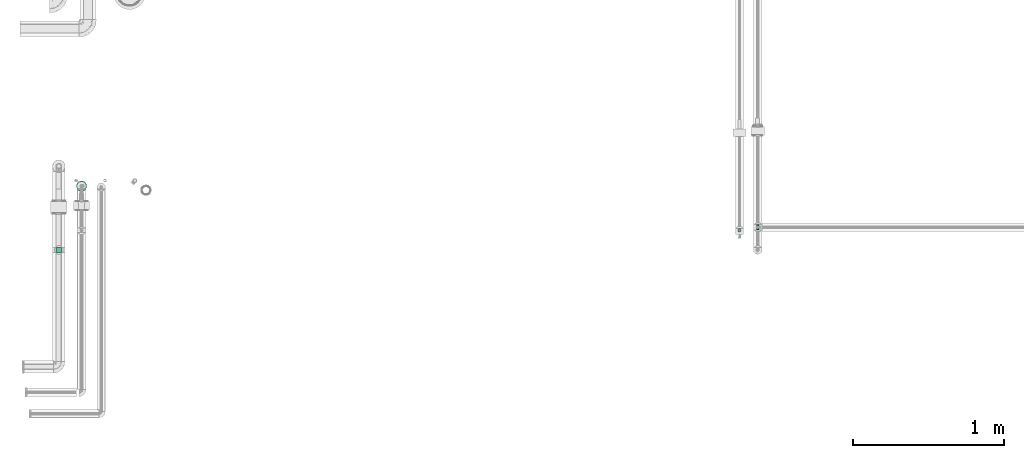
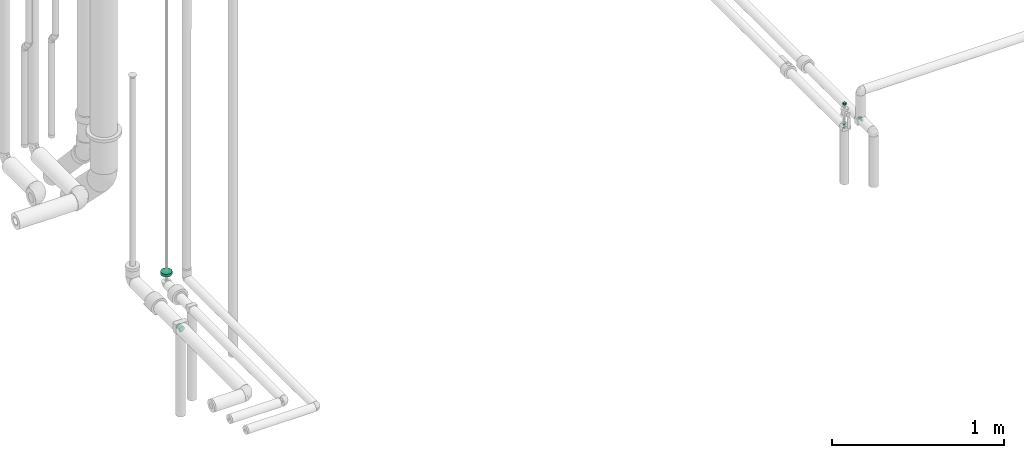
# One storey, part 76 of 78: 5 flow fittings.
"""IFC2X3 building model written with IfcOpenShell, lengths in millimetres."""

from ifc_helpers import new_model, entity, si_unit, converted_unit, derived_unit, direction, frame, origin_with_axes, place, context, subcontext, project, spatial, open_shell, surface_model, source, transform, mapped, type_object, element, save


model = new_model("IFC2X3")

# Units and contexts
model_context = context("Model", 3, precision=0.01, world=frame((0.0, 4.29681676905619e-09, 0.0)), true_north=direction((4.01073788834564e-13, 1.0)))
plan_context = context("Plan", 3, precision=0.01, world=frame((0.0, 4.29681676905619e-09, 0.0)), true_north=direction((4.01073788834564e-13, 1.0)))
body_context = subcontext(model_context, "Body", "Model", "MODEL_VIEW")
ifc_project = project(units=[converted_unit("PLANEANGLEUNIT", "DEGREE", entity("IfcPositiveLengthMeasure", 0.0174532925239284), si_unit("PLANEANGLEUNIT", "RADIAN"), dimensions=[0, 0, 0, 0, 0, 0, 0]), si_unit("AREAUNIT", "SQUARE_METRE"), si_unit("LENGTHUNIT", "METRE", prefix="MILLI"), si_unit("MASSUNIT", "GRAM", prefix="KILO"), si_unit("POWERUNIT", "WATT"), si_unit("PRESSUREUNIT", "PASCAL"), si_unit("FORCEUNIT", "NEWTON", prefix="KILO"), si_unit("ELECTRICVOLTAGEUNIT", "VOLT"), si_unit("ELECTRICCURRENTUNIT", "AMPERE"), si_unit("THERMODYNAMICTEMPERATUREUNIT", "DEGREE_CELSIUS"), si_unit("TIMEUNIT", "SECOND"), si_unit("VOLUMEUNIT", "CUBIC_METRE"), derived_unit("LINEARVELOCITYUNIT", [(si_unit("LENGTHUNIT", "METRE"), 1), (si_unit("TIMEUNIT", "SECOND"), -1)]), derived_unit("VOLUMETRICFLOWRATEUNIT", [(si_unit("VOLUMEUNIT", "CUBIC_METRE"), 1), (si_unit("TIMEUNIT", "SECOND"), -1)]), derived_unit("THERMALTRANSMITTANCEUNIT", [(si_unit("POWERUNIT", "WATT"), 1), (si_unit("THERMODYNAMICTEMPERATUREUNIT", "KELVIN"), -1), (si_unit("AREAUNIT", "SQUARE_METRE"), -1)]), derived_unit("SOUNDPRESSUREUNIT", [(si_unit("PRESSUREUNIT", "PASCAL"), 1)])], contexts=[model_context, plan_context])

# Site, building, storey
site_placement = place(None, frame((0.0, -4.29681676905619e-09, 0.0), z_axis=(0.0, 0.0, 1.0), x_axis=(1.0, 0.0, 0.0)))
site = spatial("IfcSite", under=ifc_project, at=site_placement, Name="ENGM", CompositionType="ELEMENT")
building_placement = place(site_placement, frame((0.0, 4.29681676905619e-09, 0.0), z_axis=(0.0, 0.0, 1.0), x_axis=(1.0, 0.0, 0.0)))
building = spatial("IfcBuilding", under=site, at=building_placement, Name="TH", CompositionType="ELEMENT")
storey_placement = place(building_placement, frame((0.0, 0.0, 205200.0), z_axis=(0.0, 0.0, 1.0), x_axis=(1.0, 0.0, 0.0)))
storey = spatial("IfcBuildingStorey", under=building, at=storey_placement, Name="Nivå D + 1,2 m", CompositionType="ELEMENT", Elevation=205200.0)

# Flow fittings
pipe_fitting_type_1 = type_object("IfcPipeFittingType", Name="magi_pipe_cu_joint_001", PredefinedType="CONNECTOR")
shared_shape_1 = source(origin_with_axes(), body_context, "Body", "SurfaceModel", [
    surface_model("IfcShellBasedSurfaceModel", [(0.0, 4.5, -7.79423), (0.0, 2.32937, -8.69333), (0.0, 0.0, -9.0), (0.0, -9.0, 0.0), (0.0, -4.5, 7.79423), (0.0, 6.36396, -6.36396), (0.0, 7.79423, -4.5), (0.0, 9.0, 0.0), (0.0, -4.5, -7.79423), (0.0, -6.36396, -6.36396), (0.0, -2.32937, -8.69333), (0.0, -7.79423, -4.5), (0.0, -8.69333, -2.32937), (0.0, 8.69333, -2.32937), (0.0, 8.69333, 2.32937), (0.0, 2.32937, 8.69333), (0.0, 7.79423, 4.5), (0.0, 4.5, 7.79423), (0.0, 6.36396, 6.36396), (0.0, 0.0, 9.0), (0.0, -6.36396, 6.36396), (0.0, -7.79423, 4.5), (0.0, -8.69333, 2.32937), (0.0, -2.32937, 8.69333), (0.0, 17.0, -29.44486), (0.0, 32.84148, -8.79985), (0.0, 24.04163, -24.04163), (0.0, 0.0, -34.0), (0.0, -8.79985, -32.84148), (0.0, 8.79985, -32.84148), (0.0, 29.44486, -17.0), (0.0, -32.84148, -8.79985), (0.0, 8.79985, 32.84148), (0.0, -24.04163, -24.04163), (0.0, -29.44486, -17.0), (0.0, -17.0, -29.44486), (0.0, -34.0, 0.0), (0.0, -8.79985, 32.84148), (0.0, 32.84148, 8.79985), (0.0, 29.44486, 17.0), (0.0, 17.0, 29.44486), (0.0, 24.04163, 24.04163), (0.0, -24.04163, 24.04163), (0.0, -17.0, 29.44486), (0.0, -29.44486, 17.0), (0.0, -32.84148, 8.79985), (0.0, 0.0, 34.0), (0.0, 34.0, 0.0), (20.0, 8.79985, -32.84148), (20.0, -8.79985, -32.84148), (20.0, 0.0, -34.0), (20.0, 32.84148, -8.79985), (20.0, 17.0, -29.44486), (20.0, 24.04163, -24.04163), (20.0, 29.44486, -17.0), (20.0, 32.84148, 8.79985), (20.0, -32.84148, -8.79985), (20.0, -17.0, -29.44486), (20.0, -29.44486, -17.0), (20.0, -24.04163, -24.04163), (20.0, -34.0, 0.0), (20.0, 34.0, 0.0), (20.0, 8.79985, 32.84148), (20.0, 29.44486, 17.0), (20.0, 17.0, 29.44486), (20.0, 24.04163, 24.04163), (20.0, -8.79985, 32.84148), (20.0, -29.44486, 17.0), (20.0, -17.0, 29.44486), (20.0, -24.04163, 24.04163), (20.0, -32.84148, 8.79985), (20.0, 0.0, 34.0), (20.0, 0.0, -9.0), (20.0, 2.32937, -8.69333), (20.0, 4.5, -7.79423), (20.0, 7.79423, -4.5), (20.0, -2.32937, -8.69333), (20.0, 6.36396, -6.36396), (20.0, -8.69333, 2.32937), (20.0, -4.5, -7.79423), (20.0, -8.69333, -2.32937), (20.0, -6.36396, -6.36396), (20.0, -9.0, 0.0), (20.0, -7.79423, -4.5), (20.0, 8.69333, -2.32937), (20.0, 9.0, 0.0), (20.0, 8.69333, 2.32937), (20.0, 7.79423, 4.5), (20.0, 6.36396, 6.36396), (20.0, 4.5, 7.79423), (20.0, 2.32937, 8.69333), (20.0, 0.0, 9.0), (20.0, -7.79423, 4.5), (20.0, -4.5, 7.79423), (20.0, -6.36396, 6.36396), (20.0, -2.32937, 8.69333)], [open_shell([[[0, 1, 2]], [[2, 3, 4]], [[0, 2, 4]], [[5, 0, 6]], [[7, 6, 0]], [[8, 9, 10]], [[9, 2, 10]], [[11, 12, 9]], [[3, 9, 12]], [[9, 3, 2]], [[7, 13, 6]], [[14, 7, 15]], [[16, 14, 15]], [[16, 15, 17]], [[18, 16, 17]], [[19, 15, 7]], [[20, 4, 21]], [[3, 22, 21]], [[23, 19, 4]], [[21, 4, 3]], [[0, 4, 19]], [[19, 7, 0]], [[24, 25, 26]], [[27, 28, 29]], [[24, 29, 25]], [[25, 30, 26]], [[31, 32, 29]], [[33, 34, 35]], [[28, 35, 34]], [[34, 31, 28]], [[31, 29, 28]], [[36, 37, 31]], [[38, 25, 29]], [[32, 38, 29]], [[39, 38, 32]], [[39, 32, 40]], [[41, 39, 40]], [[31, 37, 32]], [[42, 43, 44]], [[44, 36, 45]], [[44, 43, 36]], [[37, 36, 43]], [[37, 46, 32]], [[47, 25, 38]], [[48, 49, 50]], [[51, 48, 52]], [[53, 54, 51]], [[53, 51, 52]], [[48, 55, 56]], [[57, 58, 59]], [[58, 57, 49]], [[49, 56, 58]], [[49, 48, 56]], [[56, 55, 60]], [[48, 51, 61]], [[55, 62, 60]], [[62, 55, 63]], [[64, 62, 63]], [[64, 63, 65]], [[60, 62, 66]], [[67, 68, 69]], [[70, 60, 67]], [[60, 68, 67]], [[68, 60, 66]], [[62, 71, 66]], [[48, 61, 55]], [[70, 36, 60]], [[67, 45, 70]], [[42, 69, 68]], [[67, 69, 44]], [[43, 68, 66]], [[67, 44, 45]], [[45, 36, 70]], [[37, 71, 46]], [[37, 43, 66]], [[42, 68, 43]], [[42, 44, 69]], [[71, 37, 66]], [[64, 32, 62]], [[65, 40, 64]], [[39, 63, 55]], [[65, 63, 41]], [[38, 55, 61]], [[64, 40, 32]], [[32, 46, 62]], [[38, 39, 55]], [[41, 63, 39]], [[41, 40, 65]], [[47, 38, 61]], [[62, 46, 71]], [[51, 47, 61]], [[54, 25, 51]], [[26, 53, 52]], [[54, 53, 30]], [[24, 52, 48]], [[54, 30, 25]], [[25, 47, 51]], [[29, 50, 27]], [[29, 24, 48]], [[26, 52, 24]], [[26, 30, 53]], [[50, 29, 48]], [[57, 28, 49]], [[59, 35, 57]], [[34, 58, 56]], [[59, 58, 33]], [[31, 56, 60]], [[57, 35, 28]], [[28, 27, 49]], [[31, 34, 56]], [[33, 58, 34]], [[33, 35, 59]], [[36, 31, 60]], [[49, 27, 50]], [[72, 73, 74]], [[72, 74, 75]], [[72, 75, 76]], [[75, 74, 77]], [[78, 76, 75]], [[79, 80, 81]], [[82, 79, 76]], [[81, 80, 83]], [[80, 79, 82]], [[82, 76, 78]], [[78, 75, 84]], [[85, 86, 87]], [[85, 87, 88]], [[88, 89, 90]], [[88, 90, 85]], [[85, 90, 91]], [[92, 93, 94]], [[93, 92, 78]], [[93, 91, 95]], [[78, 84, 93]], [[85, 91, 93]], [[93, 84, 85]], [[78, 3, 82]], [[92, 22, 78]], [[20, 94, 93]], [[92, 94, 21]], [[4, 93, 95]], [[92, 21, 22]], [[22, 3, 78]], [[23, 91, 19]], [[23, 4, 95]], [[20, 93, 4]], [[20, 21, 94]], [[91, 23, 95]], [[89, 15, 90]], [[88, 17, 89]], [[16, 87, 86]], [[88, 87, 18]], [[14, 86, 85]], [[89, 17, 15]], [[15, 19, 90]], [[14, 16, 86]], [[18, 87, 16]], [[18, 17, 88]], [[7, 14, 85]], [[90, 19, 91]], [[84, 7, 85]], [[75, 13, 84]], [[5, 77, 74]], [[75, 77, 6]], [[0, 74, 73]], [[75, 6, 13]], [[13, 7, 84]], [[1, 72, 2]], [[1, 0, 73]], [[5, 74, 0]], [[5, 6, 77]], [[72, 1, 73]], [[79, 10, 76]], [[81, 8, 79]], [[11, 83, 80]], [[81, 83, 9]], [[12, 80, 82]], [[79, 8, 10]], [[10, 2, 76]], [[12, 11, 80]], [[9, 83, 11]], [[9, 8, 81]], [[3, 12, 82]], [[76, 2, 72]]])]),
])
flow_fitting_1_placement = place(storey_placement, frame((895520.48466, 478549.2375, 4518.0), z_axis=(1.0, 0.0, 0.0), x_axis=(0.0, 0.0, 1.0)))
element("IfcFlowFitting", 1, at=flow_fitting_1_placement, inside=storey, type_object=pipe_fitting_type_1, Name="magi_pipe_cu_joint_001", context=body_context, shape_type="MappedRepresentation", body=[
    mapped(shared_shape_1, transform((0.0, 0.0, 0.0), scale=1.0)),
])
pipe_fitting_type_2 = type_object("IfcPipeFittingType", Name="magi_pipe_cu_tee_centric_90_001", PredefinedType="JUNCTION")
shared_shape_2 = source(origin_with_axes(), body_context, "Body", "SurfaceModel", [
    surface_model("IfcShellBasedSurfaceModel", [(-18.0, 4.5, -7.79423), (-18.0, 2.32937, -8.69333), (-18.0, 0.0, -9.0), (-18.0, 6.36396, -6.36396), (-18.0, 7.79423, -4.5), (-18.0, -4.5, -7.79423), (-18.0, -6.36396, -6.36396), (-18.0, -2.32937, -8.69333), (-18.0, -7.79423, -4.5), (-18.0, -8.69333, -2.32937), (-18.0, -9.0, 0.0), (-18.0, 8.69333, -2.32937), (-18.0, -4.5, 7.79423), (-18.0, 8.69333, 2.32937), (-18.0, 9.0, 0.0), (-18.0, 2.32937, 8.69333), (-18.0, 7.79423, 4.5), (-18.0, 4.5, 7.79423), (-18.0, 6.36396, 6.36396), (-18.0, 0.0, 9.0), (-18.0, -6.36396, 6.36396), (-18.0, -7.79423, 4.5), (-18.0, -8.69333, 2.32937), (-18.0, -2.32937, 8.69333), (18.0, 0.0, -9.0), (18.0, 2.32937, -8.69333), (18.0, 4.5, -7.79423), (18.0, -9.0, 0.0), (18.0, -4.5, 7.79423), (18.0, 7.79423, -4.5), (18.0, 6.36396, -6.36396), (18.0, 8.69333, 2.32937), (18.0, -4.5, -7.79423), (18.0, -2.32937, -8.69333), (18.0, -6.36396, -6.36396), (18.0, -8.69333, -2.32937), (18.0, -7.79423, -4.5), (18.0, 8.69333, -2.32937), (18.0, 9.0, 0.0), (18.0, 2.32937, 8.69333), (18.0, 7.79423, 4.5), (18.0, 4.5, 7.79423), (18.0, 6.36396, 6.36396), (18.0, -7.79423, 4.5), (18.0, -6.36396, 6.36396), (18.0, -8.69333, 2.32937), (18.0, 0.0, 9.0), (18.0, -2.32937, 8.69333), (9.0, -9.0, 0.0), (8.67354, -8.67354, 2.40202), (7.78955, -7.78955, 4.50809), (6.53082, -6.53082, 6.19261), (5.04433, -5.04433, 7.4535), (-9.0, -9.0, 0.0), (-8.67354, -8.67354, 2.40202), (-7.78955, -7.78955, 4.50809), (-6.53082, -6.53082, 6.19261), (-5.04433, -5.04433, 7.4535), (3.4237, -3.4237, 8.32336), (1.72822, -1.72822, 8.83251), (0.0, 0.0, 9.0), (-3.4237, -3.4237, 8.32336), (-1.72822, -1.72822, 8.83251), (0.0, 0.0, -9.0), (3.4237, -3.4237, -8.32336), (1.72822, -1.72822, -8.83251), (5.04433, -5.04433, -7.4535), (-1.72822, -1.72822, -8.83251), (-3.4237, -3.4237, -8.32336), (-5.04433, -5.04433, -7.4535), (6.53082, -6.53082, -6.19261), (7.78955, -7.78955, -4.50809), (8.67354, -8.67354, -2.40202), (-6.53082, -6.53082, -6.19261), (-7.78955, -7.78955, -4.50809), (-8.67354, -8.67354, -2.40202), (0.0, -13.5, -9.0), (2.32937, -13.5, -8.69333), (4.5, -13.5, -7.79423), (-8.69333, -13.5, 2.32937), (-4.5, -13.5, 7.79423), (6.36396, -13.5, -6.36396), (7.79423, -13.5, -4.5), (-9.0, -13.5, 0.0), (-2.32937, -13.5, -8.69333), (-6.36396, -13.5, -6.36396), (-4.5, -13.5, -7.79423), (-7.79423, -13.5, -4.5), (-8.69333, -13.5, -2.32937), (8.69333, -13.5, -2.32937), (8.69333, -13.5, 2.32937), (9.0, -13.5, 0.0), (2.32937, -13.5, 8.69333), (7.79423, -13.5, 4.5), (4.5, -13.5, 7.79423), (6.36396, -13.5, 6.36396), (-6.36396, -13.5, 6.36396), (-7.79423, -13.5, 4.5), (0.0, -13.5, 9.0), (-2.32937, -13.5, 8.69333)], [open_shell([[[0, 1, 2]], [[3, 0, 4]], [[5, 6, 7]], [[8, 9, 6]], [[10, 6, 9]], [[6, 10, 11]], [[0, 2, 7]], [[7, 4, 0]], [[4, 7, 11]], [[6, 11, 7]], [[10, 12, 11]], [[13, 14, 15]], [[16, 13, 15]], [[16, 15, 17]], [[18, 16, 17]], [[19, 15, 14]], [[20, 12, 21]], [[10, 22, 21]], [[23, 19, 12]], [[21, 12, 10]], [[12, 19, 14]], [[14, 11, 12]], [[24, 25, 26]], [[27, 24, 26]], [[27, 26, 28]], [[29, 26, 30]], [[26, 29, 31]], [[24, 32, 33]], [[24, 34, 32]], [[34, 35, 36]], [[35, 34, 27]], [[24, 27, 34]], [[29, 37, 38]], [[28, 26, 31]], [[39, 31, 40]], [[41, 39, 40]], [[41, 40, 42]], [[28, 31, 39]], [[43, 28, 44]], [[43, 45, 27]], [[28, 46, 47]], [[27, 28, 43]], [[39, 46, 28]], [[29, 38, 31]], [[27, 45, 48]], [[45, 49, 48]], [[49, 45, 43]], [[49, 43, 50]], [[44, 28, 51]], [[51, 50, 44]], [[52, 51, 28]], [[44, 50, 43]], [[53, 54, 22]], [[53, 22, 10]], [[22, 54, 21]], [[54, 55, 21]], [[56, 57, 12]], [[56, 20, 55]], [[20, 56, 12]], [[55, 20, 21]], [[12, 57, 23]], [[52, 28, 47]], [[46, 58, 52]], [[58, 39, 59]], [[39, 58, 46]], [[59, 39, 41]], [[46, 52, 47]], [[41, 42, 60]], [[60, 40, 31]], [[40, 60, 42]], [[41, 60, 59]], [[60, 31, 38]], [[15, 61, 62]], [[19, 23, 57]], [[15, 19, 61]], [[19, 57, 61]], [[62, 60, 17]], [[60, 13, 16]], [[16, 18, 60]], [[17, 15, 62]], [[60, 18, 17]], [[13, 60, 14]], [[60, 38, 14]], [[37, 63, 38]], [[30, 63, 29]], [[63, 37, 29]], [[63, 30, 26]], [[25, 24, 64]], [[25, 64, 65]], [[66, 64, 24]], [[66, 24, 33]], [[25, 65, 26]], [[63, 26, 65]], [[63, 0, 3]], [[11, 63, 4]], [[3, 4, 63]], [[63, 11, 14]], [[67, 1, 0]], [[1, 68, 2]], [[7, 2, 69]], [[67, 68, 1]], [[67, 0, 63]], [[14, 38, 63]], [[32, 34, 70]], [[70, 66, 32]], [[71, 70, 34]], [[34, 36, 71]], [[36, 35, 72]], [[35, 48, 72]], [[48, 35, 27]], [[36, 72, 71]], [[69, 5, 7]], [[5, 73, 6]], [[73, 5, 69]], [[6, 73, 74]], [[69, 2, 68]], [[75, 53, 9]], [[74, 75, 8]], [[75, 9, 8]], [[9, 53, 10]], [[74, 8, 6]], [[66, 33, 32]], [[76, 77, 78]], [[79, 76, 78]], [[80, 81, 82]], [[78, 81, 80]], [[83, 76, 79]], [[84, 85, 86]], [[84, 76, 85]], [[87, 83, 88]], [[83, 87, 85]], [[76, 83, 85]], [[82, 89, 80]], [[90, 80, 91]], [[92, 90, 93]], [[94, 92, 93]], [[94, 93, 95]], [[80, 90, 92]], [[79, 96, 97]], [[96, 79, 80]], [[80, 98, 99]], [[79, 78, 80]], [[92, 98, 80]], [[80, 89, 91]], [[79, 53, 83]], [[97, 54, 79]], [[55, 96, 80]], [[80, 99, 55]], [[97, 96, 54]], [[98, 56, 99]], [[54, 53, 79]], [[55, 54, 96]], [[51, 57, 56]], [[58, 62, 61]], [[61, 57, 52]], [[55, 99, 56]], [[98, 51, 56]], [[94, 50, 92]], [[95, 50, 94]], [[49, 93, 90]], [[91, 48, 90]], [[95, 93, 49]], [[49, 90, 48]], [[60, 62, 59]], [[59, 62, 58]], [[49, 50, 95]], [[52, 57, 51]], [[50, 51, 92]], [[61, 52, 58]], [[51, 98, 92]], [[89, 48, 91]], [[82, 72, 89]], [[71, 81, 78]], [[78, 77, 71]], [[82, 81, 72]], [[76, 70, 77]], [[72, 48, 89]], [[71, 72, 81]], [[73, 66, 70]], [[68, 65, 64]], [[64, 66, 69]], [[71, 77, 70]], [[76, 73, 70]], [[86, 74, 84]], [[85, 74, 86]], [[75, 87, 88]], [[83, 53, 88]], [[85, 87, 75]], [[75, 88, 53]], [[63, 65, 67]], [[67, 65, 68]], [[75, 74, 85]], [[69, 66, 73]], [[74, 73, 84]], [[64, 69, 68]], [[73, 76, 84]]])]),
])
flow_fitting_2_placement = place(storey_placement, frame((900010.50163, 478275.49112, 4210.0), z_axis=(-1.0, 0.0, 0.0), x_axis=(0.0, 1.0, 0.0)))
element("IfcFlowFitting", 2, at=flow_fitting_2_placement, inside=storey, type_object=pipe_fitting_type_2, Name="magi_pipe_cu_tee_centric_90_001", context=body_context, shape_type="MappedRepresentation", body=[
    mapped(shared_shape_2, transform((0.0, 0.0, 0.0), scale=1.0)),
])
shared_shape_3 = source(origin_with_axes(), body_context, "Body", "SurfaceModel", [
    surface_model("IfcShellBasedSurfaceModel", [(-18.0, 0.0, -17.5), (-18.0, -12.37437, -12.37437), (-18.0, 4.52933, -16.9037), (-18.0, 8.75, -15.15544), (-18.0, 12.37437, -12.37437), (-18.0, 16.9037, -4.52933), (-18.0, 15.15544, -8.75), (-18.0, -16.9037, -4.52933), (-18.0, 8.75, 15.15544), (-18.0, -4.52933, -16.9037), (-18.0, -8.75, -15.15544), (-18.0, -15.15544, -8.75), (-18.0, -17.5, 0.0), (-18.0, 4.52933, 16.9037), (-18.0, 15.15544, 8.75), (-18.0, 16.9037, 4.52933), (-18.0, 12.37437, 12.37437), (-18.0, 0.0, 17.5), (-18.0, -16.9037, 4.52933), (-18.0, -15.15544, 8.75), (-18.0, -12.37437, 12.37437), (-18.0, -8.75, 15.15544), (-18.0, -4.52933, 16.9037), (-18.0, 17.5, 0.0), (18.0, 4.52933, -16.9037), (18.0, -12.37437, -12.37437), (18.0, 0.0, -17.5), (18.0, 12.37437, -12.37437), (18.0, 8.75, -15.15544), (18.0, 15.15544, -8.75), (18.0, 16.9037, -4.52933), (18.0, 8.75, 15.15544), (18.0, -16.9037, -4.52933), (18.0, -8.75, -15.15544), (18.0, -4.52933, -16.9037), (18.0, -15.15544, -8.75), (18.0, -17.5, 0.0), (18.0, 16.9037, 4.52933), (18.0, 15.15544, 8.75), (18.0, 4.52933, 16.9037), (18.0, 12.37437, 12.37437), (18.0, 0.0, 17.5), (18.0, -15.15544, 8.75), (18.0, -16.9037, 4.52933), (18.0, -12.37437, 12.37437), (18.0, -4.52933, 16.9037), (18.0, -8.75, 15.15544), (18.0, 17.5, 0.0), (18.0, -17.20185, 2.26467), (8.44213, -17.21975, 3.11935), (9.0, -17.5, 0.0), (6.87951, -16.50993, 5.80279), (1.58778, -15.09209, 8.85884), (18.0, -16.02957, 6.63967), (4.52704, -15.67623, 7.77856), (-4.52783, -15.67646, 7.77809), (-18.0, -16.02957, 6.63967), (-6.88178, -16.51087, 5.8001), (-8.44241, -17.21988, 3.1186), (-18.0, -17.20185, 2.26467), (-9.0, -17.5, 0.0), (-1.59035, -15.09236, 8.85837), (-6.88178, -16.51087, -5.8001), (-18.0, -16.02957, -6.63967), (-18.0, -17.20185, -2.26467), (-8.44241, -17.21988, -3.1186), (4.52704, -15.67623, -7.77856), (18.0, -16.02957, -6.63967), (6.87951, -16.50993, -5.80279), (1.58778, -15.09209, -8.85884), (8.44213, -17.21975, -3.11935), (18.0, -17.20185, -2.26467), (-1.59035, -15.09236, -8.85837), (-4.52783, -15.67646, -7.77809), (0.0, -26.25, -9.0), (2.32937, -26.25, -8.69333), (4.5, -26.25, -7.79423), (-8.69333, -26.25, 2.32937), (-4.5, -26.25, 7.79423), (6.36396, -26.25, -6.36396), (7.79423, -26.25, -4.5), (-9.0, -26.25, 0.0), (-2.32937, -26.25, -8.69333), (-6.36396, -26.25, -6.36396), (-4.5, -26.25, -7.79423), (-7.79423, -26.25, -4.5), (-8.69333, -26.25, -2.32937), (8.69333, -26.25, -2.32937), (8.69333, -26.25, 2.32937), (9.0, -26.25, 0.0), (2.32937, -26.25, 8.69333), (7.79423, -26.25, 4.5), (4.5, -26.25, 7.79423), (6.36396, -26.25, 6.36396), (-6.36396, -26.25, 6.36396), (-7.79423, -26.25, 4.5), (0.0, -26.25, 9.0), (-2.32937, -26.25, 8.69333)], [open_shell([[[0, 1, 2]], [[3, 2, 4]], [[5, 6, 4]], [[1, 4, 2]], [[7, 8, 4]], [[9, 10, 0]], [[10, 1, 0]], [[11, 7, 1]], [[1, 7, 4]], [[12, 13, 7]], [[5, 4, 8]], [[14, 15, 5]], [[8, 14, 5]], [[8, 7, 13]], [[16, 14, 8]], [[13, 12, 17]], [[18, 19, 12]], [[19, 20, 12]], [[21, 22, 20]], [[17, 20, 22]], [[12, 20, 17]], [[23, 5, 15]], [[24, 25, 26]], [[27, 24, 28]], [[27, 29, 30]], [[24, 27, 25]], [[27, 31, 32]], [[26, 33, 34]], [[26, 25, 33]], [[25, 32, 35]], [[27, 32, 25]], [[32, 31, 36]], [[31, 27, 30]], [[30, 37, 38]], [[30, 38, 31]], [[39, 36, 31]], [[31, 38, 40]], [[41, 36, 39]], [[36, 42, 43]], [[36, 44, 42]], [[44, 45, 46]], [[44, 36, 45]], [[45, 36, 41]], [[37, 30, 47]], [[48, 43, 49]], [[50, 36, 48]], [[43, 51, 49]], [[42, 44, 52]], [[50, 48, 49]], [[51, 53, 54]], [[52, 54, 42]], [[44, 20, 52]], [[54, 53, 42]], [[55, 56, 57]], [[58, 59, 60]], [[12, 60, 59]], [[58, 57, 18]], [[55, 61, 19]], [[51, 43, 53]], [[19, 56, 55]], [[19, 61, 20]], [[57, 56, 18]], [[61, 52, 20]], [[58, 18, 59]], [[44, 21, 20]], [[17, 45, 41]], [[22, 46, 45]], [[13, 41, 39]], [[38, 37, 15]], [[16, 31, 40]], [[14, 40, 38]], [[39, 31, 8]], [[23, 37, 47]], [[21, 46, 22]], [[22, 45, 17]], [[13, 17, 41]], [[39, 8, 13]], [[8, 31, 16]], [[14, 16, 40]], [[15, 14, 38]], [[37, 23, 15]], [[46, 21, 44]], [[30, 23, 47]], [[30, 29, 5]], [[29, 27, 6]], [[9, 26, 34]], [[62, 7, 63]], [[0, 24, 26]], [[28, 24, 3]], [[34, 33, 10]], [[28, 4, 27]], [[4, 6, 27]], [[6, 5, 29]], [[5, 23, 30]], [[60, 64, 65]], [[3, 24, 2]], [[0, 2, 24]], [[26, 9, 0]], [[34, 10, 9]], [[66, 67, 68]], [[4, 28, 3]], [[33, 1, 10]], [[25, 35, 69]], [[70, 32, 71]], [[66, 69, 35]], [[67, 66, 35]], [[25, 69, 1]], [[36, 50, 71]], [[70, 68, 32]], [[70, 71, 50]], [[32, 68, 67]], [[72, 73, 11]], [[11, 1, 72]], [[62, 63, 73]], [[72, 1, 69]], [[62, 65, 7]], [[65, 64, 7]], [[64, 60, 12]], [[63, 11, 73]], [[25, 1, 33]], [[74, 75, 76]], [[77, 74, 76]], [[78, 79, 80]], [[76, 79, 78]], [[81, 74, 77]], [[82, 83, 84]], [[82, 74, 83]], [[85, 81, 86]], [[81, 85, 83]], [[74, 81, 83]], [[80, 87, 78]], [[88, 78, 89]], [[90, 88, 91]], [[92, 90, 91]], [[92, 91, 93]], [[78, 88, 90]], [[77, 94, 95]], [[94, 77, 78]], [[78, 96, 97]], [[77, 76, 78]], [[90, 96, 78]], [[78, 87, 89]], [[60, 81, 77]], [[58, 95, 94]], [[77, 95, 60]], [[94, 78, 58]], [[60, 95, 58]], [[57, 58, 97]], [[61, 55, 54]], [[57, 51, 55]], [[97, 96, 57]], [[78, 97, 58]], [[90, 51, 96]], [[92, 49, 90]], [[49, 93, 91]], [[92, 93, 49]], [[50, 91, 88]], [[51, 54, 55]], [[52, 61, 54]], [[91, 50, 49]], [[49, 51, 90]], [[88, 89, 50]], [[57, 96, 51]], [[50, 89, 87]], [[70, 80, 79]], [[80, 50, 87]], [[76, 70, 79]], [[50, 80, 70]], [[68, 70, 75]], [[69, 66, 72]], [[68, 73, 66]], [[75, 74, 68]], [[76, 75, 70]], [[62, 74, 82]], [[84, 65, 82]], [[65, 83, 85]], [[84, 83, 65]], [[60, 85, 86]], [[62, 73, 68]], [[72, 66, 73]], [[85, 60, 65]], [[65, 62, 82]], [[86, 81, 60]], [[68, 74, 62]]])]),
])
flow_fitting_3_placement = place(storey_placement, frame((895369.5, 478124.37013, 4450.0), z_axis=(1.0, 0.0, 0.0), x_axis=(0.0, 1.0, 0.0)))
element("IfcFlowFitting", 3, at=flow_fitting_3_placement, inside=storey, type_object=pipe_fitting_type_2, Name="magi_pipe_cu_tee_centric_90_001", context=body_context, shape_type="MappedRepresentation", body=[
    mapped(shared_shape_3, transform((0.0, 0.0, 0.0), scale=1.0)),
])
shared_shape_4 = source(origin_with_axes(), body_context, "Body", "SurfaceModel", [
    surface_model("IfcShellBasedSurfaceModel", [(-15.0, 5.3033, 5.3033), (-15.0, 6.49519, 3.75), (-15.0, 3.75, 6.49519), (-15.0, -1.94114, 7.24444), (-15.0, 0.0, 7.5), (-15.0, -3.75, 6.49519), (-15.0, -5.3033, 5.3033), (-15.0, 3.75, -6.49519), (-15.0, 1.94114, -7.24444), (-15.0, 0.0, -7.5), (-15.0, -7.5, 0.0), (-15.0, 6.49519, -3.75), (-15.0, 5.3033, -5.3033), (-15.0, -7.24444, 1.94114), (-15.0, -5.3033, -5.3033), (-15.0, -3.75, -6.49519), (-15.0, -1.94114, -7.24444), (-15.0, -6.49519, -3.75), (-15.0, -7.24444, -1.94114), (-15.0, 7.24444, -1.94114), (-15.0, 7.24444, 1.94114), (-15.0, 7.5, 0.0), (-15.0, 1.94114, 7.24444), (-15.0, -6.49519, 3.75), (15.0, 0.0, -7.5), (15.0, 1.94114, -7.24444), (15.0, 3.75, -6.49519), (15.0, -7.24444, 1.94114), (15.0, -7.5, 0.0), (15.0, 6.49519, -3.75), (15.0, 5.3033, -5.3033), (15.0, 6.49519, 3.75), (15.0, -5.3033, -5.3033), (15.0, -3.75, -6.49519), (15.0, -1.94114, -7.24444), (15.0, -7.24444, -1.94114), (15.0, -6.49519, -3.75), (15.0, 7.24444, -1.94114), (15.0, 7.5, 0.0), (15.0, 7.24444, 1.94114), (15.0, 3.75, 6.49519), (15.0, 5.3033, 5.3033), (15.0, 0.0, 7.5), (15.0, 1.94114, 7.24444), (15.0, -5.3033, 5.3033), (15.0, -6.49519, 3.75), (15.0, -3.75, 6.49519), (15.0, -1.94114, 7.24444), (7.5, -7.5, 0.0), (7.22795, -7.22795, 2.00169), (6.49129, -6.49129, 3.75674), (5.44235, -5.44235, 5.16051), (4.20361, -4.20361, 6.21125), (-7.5, -7.5, 0.0), (-7.22795, -7.22795, 2.00169), (-6.49129, -6.49129, 3.75674), (-5.44235, -5.44235, 5.16051), (-4.20361, -4.20361, 6.21125), (2.85308, -2.85308, 6.93613), (1.44019, -1.44019, 7.36043), (0.0, 0.0, 7.5), (-2.85308, -2.85308, 6.93613), (-1.44019, -1.44019, 7.36043), (0.0, 0.0, -7.5), (2.85308, -2.85308, -6.93613), (1.44019, -1.44019, -7.36043), (4.20361, -4.20361, -6.21125), (-1.44019, -1.44019, -7.36043), (-2.85308, -2.85308, -6.93613), (-4.20361, -4.20361, -6.21125), (5.44235, -5.44235, -5.16051), (6.49129, -6.49129, -3.75674), (7.22795, -7.22795, -2.00169), (-5.44235, -5.44235, -5.16051), (-6.49129, -6.49129, -3.75674), (-7.22795, -7.22795, -2.00169), (5.3033, -11.25, -5.3033), (0.0, -11.25, -7.5), (1.94114, -11.25, -7.24444), (3.75, -11.25, -6.49519), (6.49519, -11.25, -3.75), (7.24444, -11.25, -1.94114), (-5.3033, -11.25, -5.3033), (-7.5, -11.25, 0.0), (-1.94114, -11.25, -7.24444), (-3.75, -11.25, -6.49519), (-6.49519, -11.25, -3.75), (-7.24444, -11.25, -1.94114), (3.75, -11.25, 6.49519), (7.5, -11.25, 0.0), (7.24444, -11.25, 1.94114), (6.49519, -11.25, 3.75), (0.0, -11.25, 7.5), (5.3033, -11.25, 5.3033), (1.94114, -11.25, 7.24444), (-7.24444, -11.25, 1.94114), (-5.3033, -11.25, 5.3033), (-6.49519, -11.25, 3.75), (-3.75, -11.25, 6.49519), (-1.94114, -11.25, 7.24444)], [open_shell([[[0, 1, 2]], [[3, 4, 5]], [[6, 5, 4]], [[7, 8, 9]], [[7, 9, 10]], [[11, 7, 10]], [[12, 7, 11]], [[11, 10, 13]], [[14, 10, 15]], [[9, 16, 15]], [[17, 18, 14]], [[10, 14, 18]], [[15, 10, 9]], [[13, 19, 11]], [[1, 20, 21]], [[2, 1, 21]], [[19, 13, 2]], [[22, 2, 4]], [[23, 6, 13]], [[4, 13, 6]], [[4, 2, 13]], [[21, 19, 2]], [[24, 25, 26]], [[27, 28, 24]], [[26, 27, 24]], [[29, 26, 30]], [[29, 31, 26]], [[24, 32, 33]], [[33, 34, 24]], [[32, 35, 36]], [[35, 32, 28]], [[28, 32, 24]], [[29, 37, 38]], [[38, 39, 31]], [[31, 40, 26]], [[26, 40, 27]], [[40, 31, 41]], [[42, 40, 43]], [[27, 44, 45]], [[44, 27, 42]], [[46, 42, 47]], [[42, 46, 44]], [[27, 40, 42]], [[31, 29, 38]], [[28, 27, 48]], [[27, 49, 48]], [[49, 27, 45]], [[49, 45, 50]], [[44, 46, 51]], [[51, 50, 44]], [[52, 51, 46]], [[44, 50, 45]], [[53, 54, 13]], [[53, 13, 10]], [[13, 54, 23]], [[54, 55, 23]], [[56, 57, 5]], [[56, 6, 55]], [[6, 56, 5]], [[55, 6, 23]], [[5, 57, 3]], [[52, 46, 47]], [[42, 58, 52]], [[58, 43, 59]], [[43, 58, 42]], [[59, 43, 40]], [[42, 52, 47]], [[40, 41, 60]], [[60, 31, 39]], [[31, 60, 41]], [[40, 60, 59]], [[60, 39, 38]], [[22, 61, 62]], [[4, 3, 57]], [[22, 4, 61]], [[4, 57, 61]], [[62, 60, 2]], [[60, 20, 1]], [[1, 0, 60]], [[2, 22, 62]], [[60, 0, 2]], [[20, 60, 21]], [[60, 38, 21]], [[37, 63, 38]], [[30, 63, 29]], [[63, 37, 29]], [[63, 30, 26]], [[25, 24, 64]], [[25, 64, 65]], [[66, 64, 24]], [[66, 24, 34]], [[25, 65, 26]], [[63, 26, 65]], [[63, 7, 12]], [[19, 63, 11]], [[12, 11, 63]], [[63, 19, 21]], [[67, 8, 7]], [[8, 68, 9]], [[16, 9, 69]], [[67, 68, 8]], [[67, 7, 63]], [[21, 38, 63]], [[33, 32, 70]], [[70, 66, 33]], [[71, 70, 32]], [[32, 36, 71]], [[36, 35, 72]], [[35, 48, 72]], [[48, 35, 28]], [[36, 72, 71]], [[69, 15, 16]], [[15, 73, 14]], [[73, 15, 69]], [[14, 73, 74]], [[69, 9, 68]], [[75, 53, 18]], [[74, 75, 17]], [[75, 18, 17]], [[18, 53, 10]], [[74, 17, 14]], [[66, 34, 33]], [[76, 77, 78]], [[76, 78, 79]], [[76, 80, 81]], [[77, 76, 82]], [[83, 76, 81]], [[84, 82, 85]], [[84, 77, 82]], [[86, 83, 87]], [[83, 86, 82]], [[76, 83, 82]], [[81, 88, 83]], [[89, 90, 91]], [[91, 88, 81]], [[88, 92, 83]], [[88, 91, 93]], [[92, 88, 94]], [[95, 96, 97]], [[96, 95, 92]], [[98, 92, 99]], [[92, 98, 96]], [[83, 92, 95]], [[91, 81, 89]], [[95, 53, 83]], [[97, 54, 95]], [[55, 96, 98]], [[98, 99, 55]], [[97, 96, 54]], [[92, 56, 99]], [[54, 53, 95]], [[55, 54, 96]], [[51, 57, 56]], [[58, 62, 61]], [[61, 57, 52]], [[55, 99, 56]], [[92, 51, 56]], [[88, 50, 94]], [[93, 50, 88]], [[49, 91, 90]], [[89, 48, 90]], [[93, 91, 49]], [[49, 90, 48]], [[60, 62, 59]], [[59, 62, 58]], [[49, 50, 93]], [[52, 57, 51]], [[50, 51, 94]], [[61, 52, 58]], [[51, 92, 94]], [[81, 48, 89]], [[80, 72, 81]], [[71, 76, 79]], [[79, 78, 71]], [[80, 76, 72]], [[77, 70, 78]], [[72, 48, 81]], [[71, 72, 76]], [[73, 66, 70]], [[68, 65, 64]], [[64, 66, 69]], [[71, 78, 70]], [[77, 73, 70]], [[85, 74, 84]], [[82, 74, 85]], [[75, 86, 87]], [[83, 53, 87]], [[82, 86, 75]], [[75, 87, 53]], [[63, 65, 67]], [[67, 65, 68]], [[75, 74, 82]], [[69, 66, 73]], [[74, 73, 84]], [[64, 69, 68]], [[73, 77, 84]]])]),
])
flow_fitting_4_placement = place(storey_placement, frame((899890.50163, 478254.37338, 4212.79203000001), z_axis=(1.0, 0.0, 0.0), x_axis=(0.0, 0.0, 1.0)))
element("IfcFlowFitting", 4, at=flow_fitting_4_placement, inside=storey, type_object=pipe_fitting_type_2, Name="magi_pipe_cu_tee_centric_90_001", context=body_context, shape_type="MappedRepresentation", body=[
    mapped(shared_shape_4, transform((0.0, 0.0, 0.0), scale=1.0)),
])
pipe_fitting_type_3 = type_object("IfcPipeFittingType", Name="magi_pipe_fe_plug_001", PredefinedType="OBSTRUCTION")
shared_shape_5 = source(origin_with_axes(), body_context, "Body", "SurfaceModel", [
    surface_model("IfcShellBasedSurfaceModel", [(0.0, 5.35, -9.26647), (0.0, 2.76936, -10.33541), (0.0, 0.0, -10.7), (0.0, 7.56604, -7.56604), (0.0, 9.26647, -5.35), (0.0, 0.0, 10.7), (0.0, -7.56604, -7.56604), (0.0, -10.7, 0.0), (0.0, -2.76936, -10.33541), (0.0, -5.35, -9.26647), (0.0, -10.33541, -2.76936), (0.0, -9.26647, -5.35), (0.0, 10.33541, -2.76936), (0.0, 10.7, 0.0), (0.0, 10.33541, 2.76936), (0.0, 2.76936, 10.33541), (0.0, 9.26647, 5.35), (0.0, 5.35, 9.26647), (0.0, 7.56604, 7.56604), (0.0, -9.26647, 5.35), (0.0, -7.56604, 7.56604), (0.0, -10.33541, 2.76936), (0.0, -5.35, 9.26647), (0.0, -2.76936, 10.33541), (10.7, 0.0, -10.7), (10.7, 2.76936, -10.33541), (10.7, 5.35, -9.26647), (10.7, -2.76936, -10.33541), (10.7, 9.26647, 5.35), (10.7, -10.7, 0.0), (10.7, 7.56604, -7.56604), (10.7, 10.7, 0.0), (10.7, 9.26647, -5.35), (10.7, -7.56604, -7.56604), (10.7, -5.35, -9.26647), (10.7, -10.33541, -2.76936), (10.7, -9.26647, -5.35), (10.7, 10.33541, -2.76936), (10.7, 10.33541, 2.76936), (10.7, 2.76936, 10.33541), (10.7, 5.35, 9.26647), (10.7, 7.56604, 7.56604), (10.7, 0.0, 10.7), (10.7, -10.33541, 2.76936), (10.7, -7.56604, 7.56604), (10.7, -9.26647, 5.35), (10.7, -2.76936, 10.33541), (10.7, -5.35, 9.26647)], [open_shell([[[0, 1, 2]], [[3, 0, 2]], [[4, 3, 5]], [[6, 3, 2]], [[3, 7, 5]], [[8, 9, 2]], [[9, 6, 2]], [[10, 7, 11]], [[6, 11, 7]], [[6, 7, 3]], [[12, 4, 13]], [[14, 13, 15]], [[16, 14, 15]], [[16, 15, 17]], [[18, 16, 17]], [[5, 15, 13]], [[19, 20, 21]], [[5, 21, 20]], [[22, 23, 20]], [[5, 20, 23]], [[21, 5, 7]], [[13, 4, 5]], [[24, 25, 26]], [[27, 24, 26]], [[28, 29, 30]], [[26, 30, 27]], [[31, 30, 32]], [[27, 33, 34]], [[33, 27, 35]], [[33, 35, 36]], [[35, 27, 29]], [[27, 30, 29]], [[32, 37, 31]], [[38, 28, 30]], [[39, 29, 28]], [[40, 39, 28]], [[40, 28, 41]], [[29, 39, 42]], [[43, 44, 45]], [[44, 43, 46]], [[44, 46, 47]], [[43, 29, 46]], [[42, 46, 29]], [[30, 31, 38]], [[43, 7, 29]], [[45, 21, 43]], [[20, 44, 47]], [[45, 44, 19]], [[22, 47, 46]], [[45, 19, 21]], [[21, 7, 43]], [[23, 42, 5]], [[23, 22, 46]], [[20, 47, 22]], [[20, 19, 44]], [[42, 23, 46]], [[40, 15, 39]], [[41, 17, 40]], [[16, 28, 38]], [[41, 28, 18]], [[14, 38, 31]], [[40, 17, 15]], [[15, 5, 39]], [[14, 16, 38]], [[18, 28, 16]], [[18, 17, 41]], [[13, 14, 31]], [[39, 5, 42]], [[37, 13, 31]], [[32, 12, 37]], [[3, 30, 26]], [[32, 30, 4]], [[0, 26, 25]], [[32, 4, 12]], [[12, 13, 37]], [[1, 24, 2]], [[1, 0, 25]], [[3, 26, 0]], [[3, 4, 30]], [[24, 1, 25]], [[34, 8, 27]], [[33, 9, 34]], [[11, 36, 35]], [[33, 36, 6]], [[10, 35, 29]], [[34, 9, 8]], [[8, 2, 27]], [[10, 11, 35]], [[6, 36, 11]], [[6, 9, 33]], [[7, 10, 29]], [[27, 2, 24]]])]),
])
flow_fitting_5_placement = place(storey_placement, frame((899890.50163, 478254.37338, 4367.79203000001), z_axis=(0.0, -1.0, 0.0), x_axis=(0.0, 0.0, 1.0)))
element("IfcFlowFitting", 5, at=flow_fitting_5_placement, inside=storey, type_object=pipe_fitting_type_3, Name="magi_pipe_fe_plug_001", context=body_context, shape_type="MappedRepresentation", body=[
    mapped(shared_shape_5, transform((0.0, 0.0, 0.0), scale=1.0)),
])

save(model, "model.ifc")
